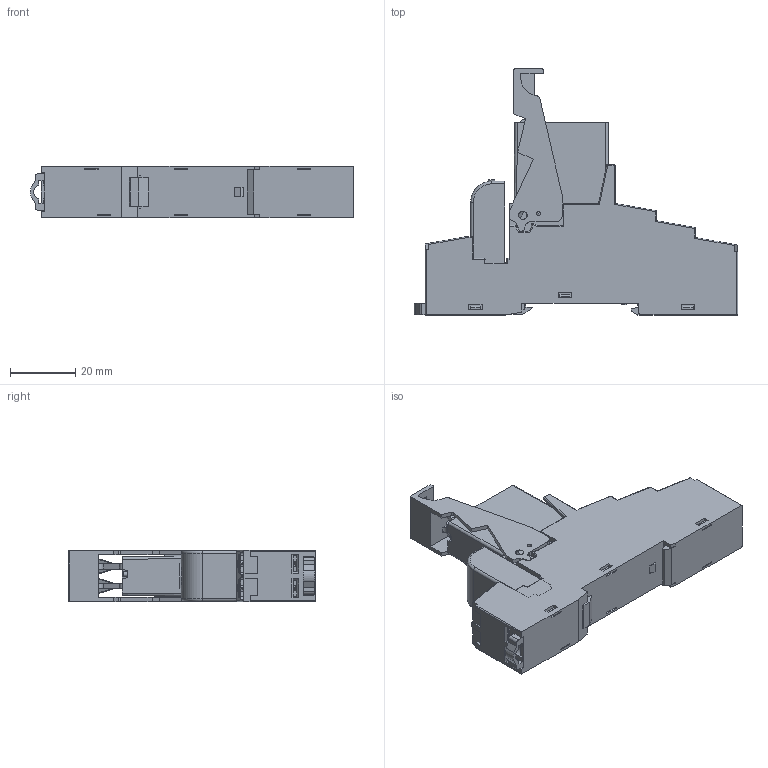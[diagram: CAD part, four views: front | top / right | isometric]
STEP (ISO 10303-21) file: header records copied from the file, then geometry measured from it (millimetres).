
FILE_DESCRIPTION(/* description */ ('Unknown'),/* implementation_level */ '2;1');
FILE_NAME(/* name */ '48P6',/* time_stamp */ '2016-02-15T17:39:51+01:00',/* author */ ('Unknown'),/* organization */ ('Unknown'),/* preprocessor_version */ 'ST-DEVELOPER v16',/* originating_system */ 'DEX',/* authorisation */ $);
FILE_SCHEMA (('AUTOMOTIVE_DESIGN {1 0 10303 214 3 1 1}'));
Products named in the file (7): 48P6; 95P5; Assieme 95.x5; Assieme 95.x5.asm0; Complessivo 42_61; 095913; 9902 modulino con led - CS
Assembly tree (6 placements, depth 4):
  48P6
    95P5
      Assieme 95.x5
        Assieme 95.x5.asm0
    Complessivo 42_61
    095913
    9902 modulino con led - CS
Bounding box: 98.9 x 75.26 x 15.8 mm (x, y, z)
Volume: 1794 mm3; surface area: 29487.4 mm2
Topology: 1 solids, 2698 shells, 3038 faces, 15908 edges, 15548 vertices
Faces by surface type: plane 2268, cylinder 576, torus 100, cone 76, sphere 16, bspline 2
Full cylindrical faces by diameter (mm): 0.6 x1, 1.2 x4, 1.3 x2, 1.5 x1, 2.2 x8, 2.5 x2, 2.6 x2
Entity records: 180386 total; most frequent: CARTESIAN_POINT 36416, DIRECTION 24315, ORIENTED_EDGE 16734, EDGE_CURVE 15866, VERTEX_POINT 15538, LINE 13037, VECTOR 13037, AXIS2_PLACEMENT_3D 5639
